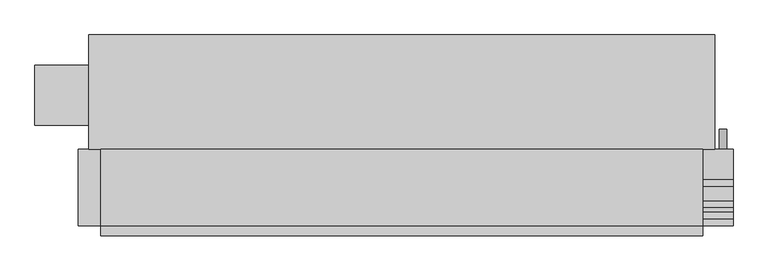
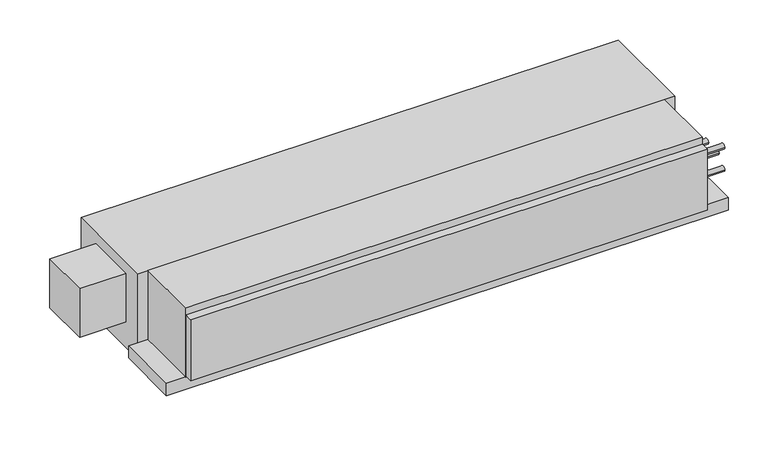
"""IFC4 building model written with IfcOpenShell, lengths in millimetres: proxy geometry, Concealed_Horizontal_Fan_Coil_Unit_With_Plenum_-_42CEA_-_CARRIER_-_4-Pipe_RH_2022 : Size 12 - 277v/60Hz/1Ph - 4/1 Coil."""

from ifc_helpers import new_model, si_unit, point, frame, frame_2d, origin, place, context, project, spatial, polyline, circle_curve, trimmed, segment, composite_curve, outline, extrude, source, transform, mapped, element, save


def mechanical_equipment_7e0143f6(model_context):
    return source(origin(), model_context, "Body", "SweptSolid", [
        extrude(outline(composite_curve([segment(trimmed(circle_curve(frame_2d((-241.3, 965.2)), 9.525), [point((-241.3, 955.675))], [point((-241.3, 974.725))], False, "CARTESIAN"), True, "CONTINUOUS"), segment(trimmed(circle_curve(frame_2d((-241.3, 965.2)), 9.525), [point((-241.3, 974.725))], [point((-241.3, 955.675))], False, "CARTESIAN"), True, "CONTINUOUS")], self_intersect=False)), frame((0.0, -141.2875, 0.0), z_axis=(0.0, 1.0, 0.0), x_axis=(0.0, 0.0, 1.0)), (0.0, 0.0, 1.0), 50.8),
        extrude(outline(composite_curve([segment(trimmed(circle_curve(frame_2d((-309.5625, -69.85)), 7.9375), [point((-317.5, -69.85))], [point((-301.625, -69.85))], False, "CARTESIAN"), True, "CONTINUOUS"), segment(trimmed(circle_curve(frame_2d((-309.5625, -69.85)), 7.9375), [point((-301.625, -69.85))], [point((-317.5, -69.85))], False, "CARTESIAN"), True, "CONTINUOUS")], self_intersect=False)), frame((914.4, 0.0, 0.0), z_axis=(1.0, 0.0, 0.0), x_axis=(0.0, 1.0, 0.0)), (0.0, 0.0, 1.0), 76.2),
        extrude(outline(composite_curve([segment(trimmed(circle_curve(frame_2d((-309.5625, -139.7)), 7.9375), [point((-317.5, -139.7))], [point((-301.625, -139.7))], False, "CARTESIAN"), True, "CONTINUOUS"), segment(trimmed(circle_curve(frame_2d((-309.5625, -139.7)), 7.9375), [point((-301.625, -139.7))], [point((-317.5, -139.7))], False, "CARTESIAN"), True, "CONTINUOUS")], self_intersect=False)), frame((914.4, 0.0, 0.0), z_axis=(1.0, 0.0, 0.0), x_axis=(0.0, 1.0, 0.0)), (0.0, 0.0, 1.0), 76.2),
        extrude(outline(composite_curve([segment(trimmed(circle_curve(frame_2d((-227.0125, -104.775)), 7.9375), [point((-234.95, -104.775))], [point((-219.075, -104.775))], False, "CARTESIAN"), True, "CONTINUOUS"), segment(trimmed(circle_curve(frame_2d((-227.0125, -104.775)), 7.9375), [point((-219.075, -104.775))], [point((-234.95, -104.775))], False, "CARTESIAN"), True, "CONTINUOUS")], self_intersect=False)), frame((914.4, 0.0, 0.0), z_axis=(1.0, 0.0, 0.0), x_axis=(0.0, 1.0, 0.0)), (0.0, 0.0, 1.0), 76.2),
        extrude(outline(composite_curve([segment(trimmed(circle_curve(frame_2d((-280.9875, -104.775)), 7.9375), [point((-288.925, -104.775))], [point((-273.05, -104.775))], False, "CARTESIAN"), True, "CONTINUOUS"), segment(trimmed(circle_curve(frame_2d((-280.9875, -104.775)), 7.9375), [point((-273.05, -104.775))], [point((-288.925, -104.775))], False, "CARTESIAN"), True, "CONTINUOUS")], self_intersect=False)), frame((914.4, 0.0, 0.0), z_axis=(1.0, 0.0, 0.0), x_axis=(0.0, 1.0, 0.0)), (0.0, 0.0, 1.0), 76.2),
        extrude(outline(polyline([(914.4, -334.9625), (914.4, -360.3625), (-609.6, -360.3625), (-609.6, -334.9625), (914.4, -334.9625)])), frame((0.0, 0.0, -212.725), z_axis=(0.0, 0.0, 1.0), x_axis=(1.0, 0.0, 0.0)), (0.0, 0.0, 1.0), 190.5),
        extrude(outline(polyline([(914.4, -334.9625), (-609.6, -334.9625), (-609.6, -141.2875), (914.4, -141.2875), (914.4, -334.9625)])), frame((0.0, 0.0, -215.9), z_axis=(0.0, 0.0, 1.0), x_axis=(1.0, 0.0, 0.0)), (0.0, 0.0, 1.0), 215.9),
        extrude(outline(polyline([(990.6, -141.2875), (990.6, -334.9625), (-666.75, -334.9625), (-666.75, -141.2875), (990.6, -141.2875)])), frame((0.0, 0.0, -254.0), z_axis=(0.0, 0.0, 1.0), x_axis=(1.0, 0.0, 0.0)), (0.0, 0.0, 1.0), 38.1),
        extrude(outline(polyline([(-776.2875, -80.9625), (-776.2875, 71.4375), (-639.7625, 71.4375), (-639.7625, -80.9625), (-776.2875, -80.9625)])), frame((0.0, 0.0, -187.325), z_axis=(0.0, 0.0, 1.0), x_axis=(1.0, 0.0, 0.0)), (0.0, 0.0, 1.0), 152.4),
        extrude(outline(polyline([(-639.7625, 147.6375), (944.5625, 147.6375), (944.5625, -141.2875), (-639.7625, -141.2875), (-639.7625, 147.6375)])), frame((0.0, 0.0, -266.7), z_axis=(0.0, 0.0, 1.0), x_axis=(1.0, 0.0, 0.0)), (0.0, 0.0, 1.0), 266.7),
    ])


if __name__ == "__main__":
    model = new_model("IFC4")
    model_context = context("Model", 3, world=origin())
    ifc_project = project(units=[si_unit("LENGTHUNIT", "METRE", prefix="MILLI")], contexts=[model_context])
    site = spatial("IfcSite", under=ifc_project)
    building = spatial("IfcBuilding", under=site)
    placement = place(None, origin())
    mechanical_equipment_shape = mechanical_equipment_7e0143f6(model_context)
    element("IfcBuildingElementProxy", 1, Name="Concealed_Horizontal_Fan_Coil_Unit_With_Plenum_-_42CEA_-_CARRIER_-_4-Pipe_RH_2022 : Size 12 - 277v/60Hz/1Ph - 4/1 Coil", ObjectType="Concealed_Horizontal_Fan_Coil_Unit_With_Plenum_-_42CEA_-_CARRIER_-_4-Pipe_RH_2022 : Size 12 - 277v/60Hz/1Ph - 4/1 Coil", at=placement, inside=building, context=model_context, shape_type="MappedRepresentation", body=[
        mapped(mechanical_equipment_shape, transform((0.0, 0.0, 0.0), x_axis=(1.0, 0.0, 0.0), y_axis=(0.0, 1.0, 0.0), z_axis=(0.0, 0.0, 1.0))),
    ])
    save(model, "model.ifc")
